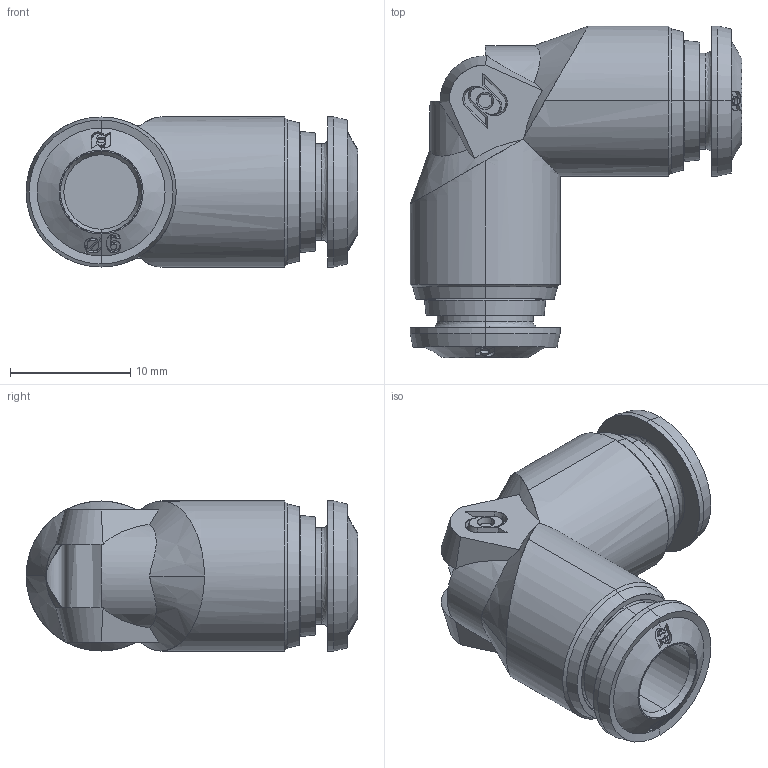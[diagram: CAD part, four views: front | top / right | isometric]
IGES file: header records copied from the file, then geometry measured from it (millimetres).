
Start section: SolidWorks IGES file using analytic representation for surfaces
Global section: file name: K:\Disegni Esecutivi\Serie 50000\ASSIEMI\50130\ASSIEMI_PIENI_50130\5013000002.IGS; native system: SolidWorks 2007; preprocessor: SolidWorks 2007; author: cad02; date: 071011.105449; units: millimetre
Bounding box: 27.65 x 27.65 x 12.5 mm (x, y, z)
Surface area: 2689.1 mm2 (no closed solid volume)
Topology: 0 solids, 0 shells, 273 faces, 3556 edges, 3555 vertices
Faces by surface type: bspline 154, revolution 119
